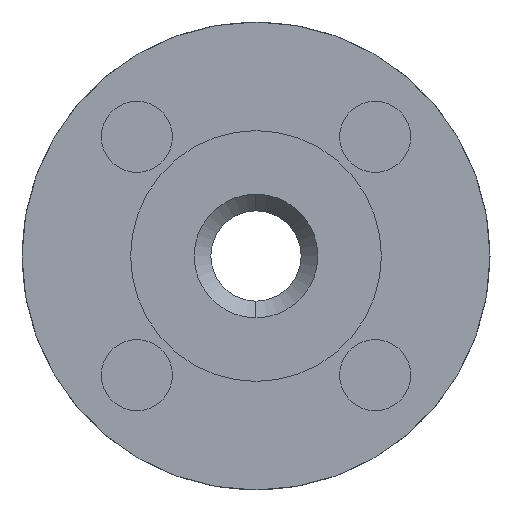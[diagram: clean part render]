
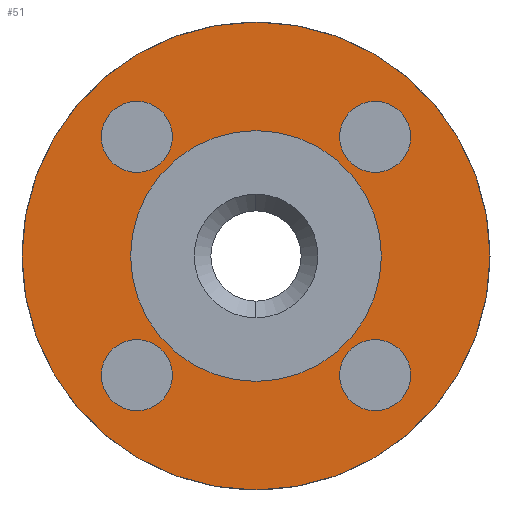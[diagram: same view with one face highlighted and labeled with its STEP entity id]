
A CAD part, left-side view. The second image highlights one B-rep face of the part: STEP entity #51.
In plain terms, the highlighted planar face has unit normal (-1, 0, 0).
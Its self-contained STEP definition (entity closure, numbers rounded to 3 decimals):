
#51=ADVANCED_FACE('',(#271,#272,#273,#274,#275,#276),#270,.T.);
#270=PLANE('',#1290);
#271=FACE_OUTER_BOUND('',#1291,.T.);
#272=FACE_BOUND('',#1292,.T.);
#273=FACE_BOUND('',#1293,.T.);
#274=FACE_BOUND('',#1294,.T.);
#275=FACE_BOUND('',#1295,.T.);
#276=FACE_BOUND('',#1296,.T.);
#1287=CARTESIAN_POINT('',(1.,-118.253,-135.));
#1288=DIRECTION('',(-1.,0.,0.));
#1289=DIRECTION('',(0.,0.,1.));
#1290=AXIS2_PLACEMENT_3D('',#1287,#1288,#1289);
#1291=EDGE_LOOP('',(#2230,#2231));
#1292=EDGE_LOOP('',(#2232,#2233));
#1293=EDGE_LOOP('',(#2234,#2235));
#1294=EDGE_LOOP('',(#2236,#2237));
#1295=EDGE_LOOP('',(#2238,#2239));
#1296=EDGE_LOOP('',(#2240,#2241));
#2230=ORIENTED_EDGE('',*,*,#2704,.T.);
#2231=ORIENTED_EDGE('',*,*,#2705,.T.);
#2232=ORIENTED_EDGE('',*,*,#2706,.F.);
#2233=ORIENTED_EDGE('',*,*,#2707,.F.);
#2234=ORIENTED_EDGE('',*,*,#2708,.F.);
#2235=ORIENTED_EDGE('',*,*,#2709,.F.);
#2236=ORIENTED_EDGE('',*,*,#2710,.F.);
#2237=ORIENTED_EDGE('',*,*,#2711,.F.);
#2238=ORIENTED_EDGE('',*,*,#2712,.F.);
#2239=ORIENTED_EDGE('',*,*,#2713,.F.);
#2240=ORIENTED_EDGE('',*,*,#2714,.F.);
#2241=ORIENTED_EDGE('',*,*,#2715,.F.);
#2704=EDGE_CURVE('',#3288,#3289,#3290,.T.);
#2705=EDGE_CURVE('',#3289,#3288,#3296,.T.);
#2706=EDGE_CURVE('',#3302,#3303,#3304,.T.);
#2707=EDGE_CURVE('',#3303,#3302,#3310,.T.);
#2708=EDGE_CURVE('',#3316,#3317,#3318,.T.);
#2709=EDGE_CURVE('',#3317,#3316,#3324,.T.);
#2710=EDGE_CURVE('',#3330,#3331,#3332,.T.);
#2711=EDGE_CURVE('',#3331,#3330,#3338,.T.);
#2712=EDGE_CURVE('',#3344,#3345,#3346,.T.);
#2713=EDGE_CURVE('',#3345,#3344,#3352,.T.);
#2714=EDGE_CURVE('',#3358,#3359,#3360,.T.);
#2715=EDGE_CURVE('',#3359,#3358,#3366,.T.);
#3288=VERTEX_POINT('',#4741);
#3289=VERTEX_POINT('',#4742);
#3290=CIRCLE('',#4746,62.5);
#3296=CIRCLE('',#4750,62.5);
#3302=VERTEX_POINT('',#4751);
#3303=VERTEX_POINT('',#4752);
#3304=CIRCLE('',#4756,9.5);
#3310=CIRCLE('',#4760,9.5);
#3316=VERTEX_POINT('',#4761);
#3317=VERTEX_POINT('',#4762);
#3318=CIRCLE('',#4766,9.5);
#3324=CIRCLE('',#4770,9.5);
#3330=VERTEX_POINT('',#4771);
#3331=VERTEX_POINT('',#4772);
#3332=CIRCLE('',#4776,9.5);
#3338=CIRCLE('',#4780,9.5);
#3344=VERTEX_POINT('',#4781);
#3345=VERTEX_POINT('',#4782);
#3346=CIRCLE('',#4786,9.5);
#3352=CIRCLE('',#4790,9.5);
#3358=VERTEX_POINT('',#4791);
#3359=VERTEX_POINT('',#4792);
#3360=CIRCLE('',#4796,33.5);
#3366=CIRCLE('',#4800,33.5);
#4741=CARTESIAN_POINT('',(1.,0.,62.5));
#4742=CARTESIAN_POINT('',(1.,0.,-62.5));
#4743=CARTESIAN_POINT('',(1.,0.,0.));
#4744=DIRECTION('',(-1.,0.,0.));
#4745=DIRECTION('',(0.,0.,1.));
#4746=AXIS2_PLACEMENT_3D('',#4743,#4744,#4745);
#4747=CARTESIAN_POINT('',(1.,0.,0.));
#4748=DIRECTION('',(-1.,0.,0.));
#4749=DIRECTION('',(0.,0.,1.));
#4750=AXIS2_PLACEMENT_3D('',#4747,#4748,#4749);
#4751=CARTESIAN_POINT('',(1.,-31.82,41.32));
#4752=CARTESIAN_POINT('',(1.,-31.82,22.32));
#4753=CARTESIAN_POINT('',(1.,-31.82,31.82));
#4754=DIRECTION('',(-1.,0.,0.));
#4755=DIRECTION('',(0.,0.,-1.));
#4756=AXIS2_PLACEMENT_3D('',#4753,#4754,#4755);
#4757=CARTESIAN_POINT('',(1.,-31.82,31.82));
#4758=DIRECTION('',(-1.,0.,0.));
#4759=DIRECTION('',(0.,0.,-1.));
#4760=AXIS2_PLACEMENT_3D('',#4757,#4758,#4759);
#4761=CARTESIAN_POINT('',(1.,-31.82,-22.32));
#4762=CARTESIAN_POINT('',(1.,-31.82,-41.32));
#4763=CARTESIAN_POINT('',(1.,-31.82,-31.82));
#4764=DIRECTION('',(-1.,0.,0.));
#4765=DIRECTION('',(0.,0.,-1.));
#4766=AXIS2_PLACEMENT_3D('',#4763,#4764,#4765);
#4767=CARTESIAN_POINT('',(1.,-31.82,-31.82));
#4768=DIRECTION('',(-1.,0.,0.));
#4769=DIRECTION('',(0.,0.,-1.));
#4770=AXIS2_PLACEMENT_3D('',#4767,#4768,#4769);
#4771=CARTESIAN_POINT('',(1.,31.82,-22.32));
#4772=CARTESIAN_POINT('',(1.,31.82,-41.32));
#4773=CARTESIAN_POINT('',(1.,31.82,-31.82));
#4774=DIRECTION('',(-1.,0.,0.));
#4775=DIRECTION('',(0.,0.,-1.));
#4776=AXIS2_PLACEMENT_3D('',#4773,#4774,#4775);
#4777=CARTESIAN_POINT('',(1.,31.82,-31.82));
#4778=DIRECTION('',(-1.,0.,0.));
#4779=DIRECTION('',(0.,0.,-1.));
#4780=AXIS2_PLACEMENT_3D('',#4777,#4778,#4779);
#4781=CARTESIAN_POINT('',(1.,31.82,41.32));
#4782=CARTESIAN_POINT('',(1.,31.82,22.32));
#4783=CARTESIAN_POINT('',(1.,31.82,31.82));
#4784=DIRECTION('',(-1.,0.,0.));
#4785=DIRECTION('',(0.,0.,-1.));
#4786=AXIS2_PLACEMENT_3D('',#4783,#4784,#4785);
#4787=CARTESIAN_POINT('',(1.,31.82,31.82));
#4788=DIRECTION('',(-1.,0.,0.));
#4789=DIRECTION('',(0.,0.,-1.));
#4790=AXIS2_PLACEMENT_3D('',#4787,#4788,#4789);
#4791=CARTESIAN_POINT('',(1.,0.,-33.5));
#4792=CARTESIAN_POINT('',(1.,0.,33.5));
#4793=CARTESIAN_POINT('',(1.,0.,0.));
#4794=DIRECTION('',(-1.,0.,0.));
#4795=DIRECTION('',(0.,0.,1.));
#4796=AXIS2_PLACEMENT_3D('',#4793,#4794,#4795);
#4797=CARTESIAN_POINT('',(1.,0.,0.));
#4798=DIRECTION('',(-1.,0.,0.));
#4799=DIRECTION('',(0.,0.,1.));
#4800=AXIS2_PLACEMENT_3D('',#4797,#4798,#4799);
